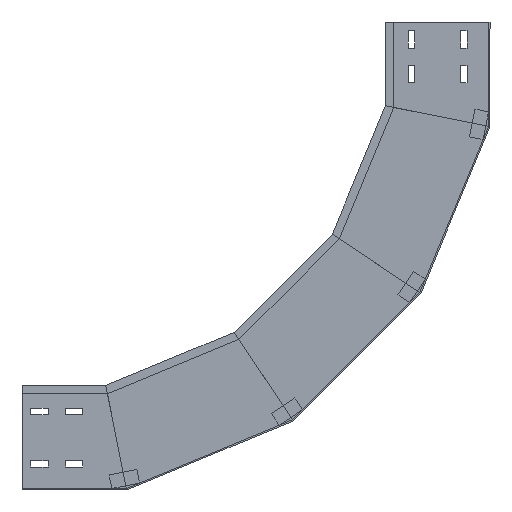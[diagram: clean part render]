
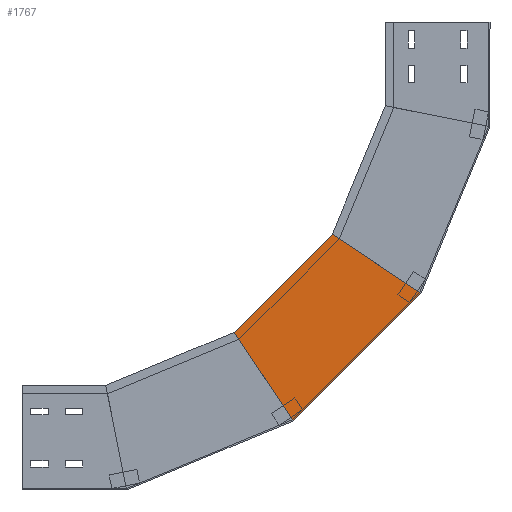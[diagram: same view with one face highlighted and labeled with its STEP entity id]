
A CAD part, left-side view. The second image highlights one B-rep face of the part: STEP entity #1767.
In plain terms, the highlighted planar face has unit normal (-1, 0, 0) as drawn and (1, 0, 0) by its records, which use the part's own axes.
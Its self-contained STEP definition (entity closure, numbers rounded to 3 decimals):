
#8 = ORIENTED_EDGE ( 'NONE', *, *, #406, .T. ) ;
#132 = CARTESIAN_POINT ( 'NONE',  ( 0., 282.256, -572.425 ) ) ;
#202 = PLANE ( 'NONE',  #2303 ) ;
#297 = LINE ( 'NONE', #2175, #1834 ) ;
#391 = CARTESIAN_POINT ( 'NONE',  ( 0., 99.115, -389.285 ) ) ;
#402 = DIRECTION ( 'NONE',  ( 0., 0., 1. ) ) ;
#406 = EDGE_CURVE ( 'NONE', #2335, #724, #1315, .T. ) ;
#414 = CARTESIAN_POINT ( 'NONE',  ( 0., 99.115, -389.285 ) ) ;
#502 = DIRECTION ( 'NONE',  ( 0., 0.707, -0.707 ) ) ;
#627 = CARTESIAN_POINT ( 'NONE',  ( 0., 367.224, -445.262 ) ) ;
#630 = ORIENTED_EDGE ( 'NONE', *, *, #1772, .T. ) ;
#656 = VERTEX_POINT ( 'NONE', #627 ) ;
#718 = CARTESIAN_POINT ( 'NONE',  ( 0., 310.328, -530.413 ) ) ;
#724 = VERTEX_POINT ( 'NONE', #1278 ) ;
#726 = DIRECTION ( 'NONE',  ( 0., -0.831, -0.556 ) ) ;
#748 = EDGE_CURVE ( 'NONE', #656, #2028, #1020, .T. ) ;
#765 = CARTESIAN_POINT ( 'NONE',  ( 0., 141.128, -361.213 ) ) ;
#981 = FACE_OUTER_BOUND ( 'NONE', #1111, .T. ) ;
#1020 = LINE ( 'NONE', #718, #1763 ) ;
#1111 = EDGE_LOOP ( 'NONE', ( #2138, #8, #630, #1129 ) ) ;
#1129 = ORIENTED_EDGE ( 'NONE', *, *, #748, .F. ) ;
#1160 = LINE ( 'NONE', #391, #2418 ) ;
#1278 = CARTESIAN_POINT ( 'NONE',  ( 0., 99.115, -389.285 ) ) ;
#1315 = LINE ( 'NONE', #765, #1524 ) ;
#1494 = DIRECTION ( 'NONE',  ( 0., 0.707, -0.707 ) ) ;
#1524 = VECTOR ( 'NONE', #726, 1000. ) ;
#1703 = DIRECTION ( 'NONE',  ( -1., 0., 0. ) ) ;
#1763 = VECTOR ( 'NONE', #1953, 1000. ) ;
#1767 = ADVANCED_FACE ( 'NONE', ( #981 ), #202, .F. ) ;
#1772 = EDGE_CURVE ( 'NONE', #724, #2028, #1160, .T. ) ;
#1834 = VECTOR ( 'NONE', #502, 1000. ) ;
#1921 = CARTESIAN_POINT ( 'NONE',  ( 0., 226.279, -304.317 ) ) ;
#1953 = DIRECTION ( 'NONE',  ( 0., -0.556, -0.831 ) ) ;
#2028 = VERTEX_POINT ( 'NONE', #132 ) ;
#2125 = EDGE_CURVE ( 'NONE', #2335, #656, #297, .T. ) ;
#2138 = ORIENTED_EDGE ( 'NONE', *, *, #2125, .F. ) ;
#2175 = CARTESIAN_POINT ( 'NONE',  ( 0., 205.181, -283.219 ) ) ;
#2303 = AXIS2_PLACEMENT_3D ( 'NONE', #414, #1703, #402 ) ;
#2335 = VERTEX_POINT ( 'NONE', #1921 ) ;
#2418 = VECTOR ( 'NONE', #1494, 1000. ) ;
